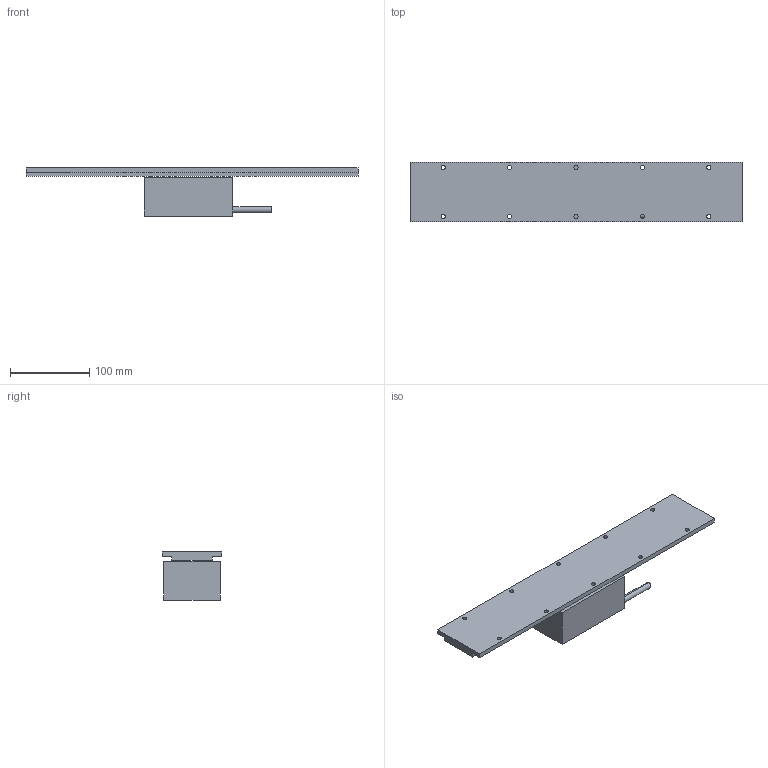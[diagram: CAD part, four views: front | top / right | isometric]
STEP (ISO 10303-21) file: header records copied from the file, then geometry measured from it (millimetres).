
FILE_DESCRIPTION (( 'STEP AP214' ), '1' );
FILE_NAME ('FLM-71-112蚾饜极.STEP', '2022-05-12T08:02:08', ( 'Microsoft' ), ( 'Microsoft' ), 'SwSTEP 2.0', 'SolidWorks 2016', '' );
FILE_SCHEMA (( 'AUTOMOTIVE_DESIGN' ));
Length unit declared in the file: millimetre
Products named in the file (3): FLM-71-112; TLM-75-L420; FLM-71-112蚾饜极
Assembly tree (2 placements, depth 2):
  FLM-71-112蚾饜极
    FLM-71-112
    TLM-75-L420
Bounding box: 420 x 75 x 61.1 mm (x, y, z)
Volume: 684076.3 mm3; surface area: 109871.6 mm2
Topology: 2 solids, 2 shells, 105 faces, 246 edges, 150 vertices
Faces by surface type: cylinder 54, plane 27, cone 24
Entity records: 3226 total; most frequent: DIRECTION 574, CARTESIAN_POINT 494, ORIENTED_EDGE 468, EDGE_CURVE 234, AXIS2_PLACEMENT_3D 230, VERTEX_POINT 150, EDGE_LOOP 142, CIRCLE 120
